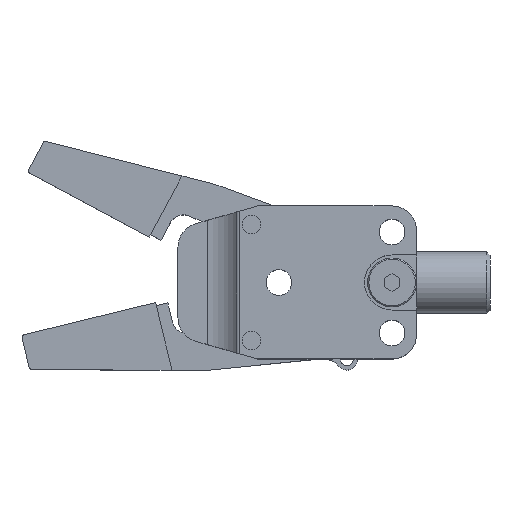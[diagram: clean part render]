
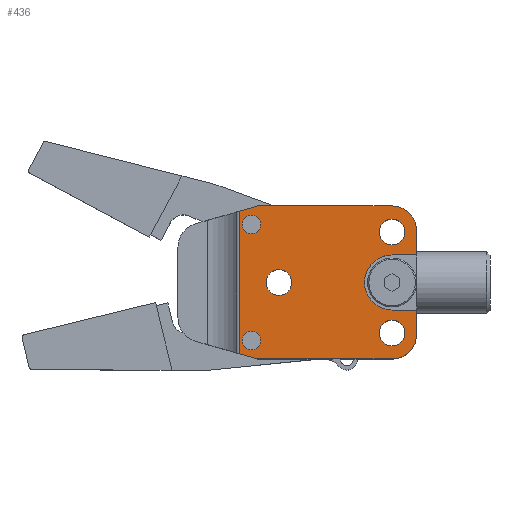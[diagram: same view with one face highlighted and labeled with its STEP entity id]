
A CAD part, top view. The second image highlights one B-rep face of the part: STEP entity #436.
In plain terms, the highlighted planar face has unit normal (0, 0, 1).
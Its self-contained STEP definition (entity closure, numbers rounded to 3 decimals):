
#436=ADVANCED_FACE('',(#828,#829,#830,#831,#832,#833),#834,.T.);
#828=FACE_BOUND('',#1235,.T.);
#829=FACE_BOUND('',#1236,.T.);
#830=FACE_BOUND('',#1237,.T.);
#831=FACE_BOUND('',#1238,.T.);
#832=FACE_BOUND('',#1239,.T.);
#833=FACE_OUTER_BOUND('',#1240,.T.);
#834=PLANE('',#1241);
#1235=EDGE_LOOP('',(#2033));
#1236=EDGE_LOOP('',(#2034));
#1237=EDGE_LOOP('',(#2035));
#1238=EDGE_LOOP('',(#2036));
#1239=EDGE_LOOP('',(#2037));
#1240=EDGE_LOOP('',(#2038,#2039,#2040,#2041,#2042,#2043,#2044,#2045,#2046,#2047,#2048,#2049));
#1241=AXIS2_PLACEMENT_3D('',#2050,#2051,#2052);
#2033=ORIENTED_EDGE('',*,*,#2524,.F.);
#2034=ORIENTED_EDGE('',*,*,#2527,.F.);
#2035=ORIENTED_EDGE('',*,*,#2530,.F.);
#2036=ORIENTED_EDGE('',*,*,#2536,.F.);
#2037=ORIENTED_EDGE('',*,*,#2538,.F.);
#2038=ORIENTED_EDGE('',*,*,#2635,.F.);
#2039=ORIENTED_EDGE('',*,*,#2636,.T.);
#2040=ORIENTED_EDGE('',*,*,#2637,.F.);
#2041=ORIENTED_EDGE('',*,*,#2638,.T.);
#2042=ORIENTED_EDGE('',*,*,#2639,.T.);
#2043=ORIENTED_EDGE('',*,*,#2624,.F.);
#2044=ORIENTED_EDGE('',*,*,#2550,.F.);
#2045=ORIENTED_EDGE('',*,*,#2554,.F.);
#2046=ORIENTED_EDGE('',*,*,#2546,.F.);
#2047=ORIENTED_EDGE('',*,*,#2623,.F.);
#2048=ORIENTED_EDGE('',*,*,#2640,.T.);
#2049=ORIENTED_EDGE('',*,*,#2641,.T.);
#2050=CARTESIAN_POINT('',(0.0,0.0,7.5));
#2051=DIRECTION('',(0.0,0.0,1.0));
#2052=DIRECTION('',(1.0,0.0,0.0));
#2524=EDGE_CURVE('',#3000,#3000,#3001,.T.);
#2527=EDGE_CURVE('',#3005,#3005,#3006,.T.);
#2530=EDGE_CURVE('',#3010,#3010,#3011,.T.);
#2536=EDGE_CURVE('',#3019,#3019,#3020,.T.);
#2538=EDGE_CURVE('',#3022,#3022,#3023,.T.);
#2546=EDGE_CURVE('',#3035,#3036,#3037,.T.);
#2550=EDGE_CURVE('',#3041,#3042,#3043,.T.);
#2554=EDGE_CURVE('',#3036,#3041,#3047,.T.);
#2623=EDGE_CURVE('',#3162,#3035,#3164,.T.);
#2624=EDGE_CURVE('',#3042,#3165,#3166,.T.);
#2635=EDGE_CURVE('',#3183,#3184,#3185,.T.);
#2636=EDGE_CURVE('',#3183,#3186,#3187,.F.);
#2637=EDGE_CURVE('',#3188,#3186,#3189,.T.);
#2638=EDGE_CURVE('',#3188,#3190,#3191,.T.);
#2639=EDGE_CURVE('',#3190,#3165,#3192,.T.);
#2640=EDGE_CURVE('',#3162,#3193,#3194,.T.);
#2641=EDGE_CURVE('',#3193,#3184,#3195,.T.);
#3000=VERTEX_POINT('',#3673);
#3001=CIRCLE('',#3674,2.1);
#3005=VERTEX_POINT('',#3678);
#3006=CIRCLE('',#3679,2.1);
#3010=VERTEX_POINT('',#3683);
#3011=CIRCLE('',#3684,2.1);
#3019=VERTEX_POINT('',#3692);
#3020=CIRCLE('',#3693,1.525);
#3022=VERTEX_POINT('',#3695);
#3023=CIRCLE('',#3696,1.525);
#3035=VERTEX_POINT('',#3712);
#3036=VERTEX_POINT('',#3713);
#3037=LINE('',#3714,#3715);
#3041=VERTEX_POINT('',#3721);
#3042=VERTEX_POINT('',#3722);
#3043=LINE('',#3723,#3724);
#3047=CIRCLE('',#3730,4.5);
#3162=VERTEX_POINT('',#3882);
#3164=LINE('',#3885,#3886);
#3165=VERTEX_POINT('',#3887);
#3166=LINE('',#3888,#3889);
#3183=VERTEX_POINT('',#3912);
#3184=VERTEX_POINT('',#3913);
#3185=LINE('',#3914,#3915);
#3186=VERTEX_POINT('',#3916);
#3187=LINE('',#3917,#3918);
#3188=VERTEX_POINT('',#3919);
#3189=LINE('',#3920,#3921);
#3190=VERTEX_POINT('',#3922);
#3191=LINE('',#3923,#3924);
#3192=CIRCLE('',#3925,4.0);
#3193=VERTEX_POINT('',#3926);
#3194=CIRCLE('',#3927,4.0);
#3195=LINE('',#3928,#3929);
#3673=CARTESIAN_POINT('',(12.1,8.25,7.5));
#3674=AXIS2_PLACEMENT_3D('',#4257,#4258,#4259);
#3678=CARTESIAN_POINT('',(12.1,-8.25,7.5));
#3679=AXIS2_PLACEMENT_3D('',#4263,#4264,#4265);
#3683=CARTESIAN_POINT('',(-6.4,0.,7.5));
#3684=AXIS2_PLACEMENT_3D('',#4269,#4270,#4271);
#3692=CARTESIAN_POINT('',(-11.475,-9.5,7.5));
#3693=AXIS2_PLACEMENT_3D('',#4278,#4279,#4280);
#3695=CARTESIAN_POINT('',(-11.475,9.5,7.5));
#3696=AXIS2_PLACEMENT_3D('',#4281,#4282,#4283);
#3712=CARTESIAN_POINT('',(14.0,4.5,7.5));
#3713=CARTESIAN_POINT('',(10.0,4.5,7.5));
#3714=CARTESIAN_POINT('',(10.0,4.5,7.5));
#3715=VECTOR('',#4291,1.0);
#3721=CARTESIAN_POINT('',(10.0,-4.5,7.5));
#3722=CARTESIAN_POINT('',(14.0,-4.5,7.5));
#3723=CARTESIAN_POINT('',(10.0,-4.5,7.5));
#3724=VECTOR('',#4294,1.0);
#3730=AXIS2_PLACEMENT_3D('',#4297,#4298,#4299);
#3882=CARTESIAN_POINT('',(14.0,8.5,7.5));
#3885=CARTESIAN_POINT('',(14.0,12.5,7.5));
#3886=VECTOR('',#4392,1.0);
#3887=CARTESIAN_POINT('',(14.0,-8.5,7.5));
#3888=CARTESIAN_POINT('',(14.0,12.5,7.5));
#3889=VECTOR('',#4393,1.0);
#3912=CARTESIAN_POINT('',(-14.997,11.641,7.5));
#3913=CARTESIAN_POINT('',(-12.0,12.5,7.5));
#3914=CARTESIAN_POINT('',(-26.0,8.486,7.5));
#3915=VECTOR('',#4406,1.0);
#3916=CARTESIAN_POINT('',(-14.997,-11.641,7.5));
#3917=CARTESIAN_POINT('',(-14.997,-11.57,7.5));
#3918=VECTOR('',#4407,1.0);
#3919=CARTESIAN_POINT('',(-12.0,-12.5,7.5));
#3920=CARTESIAN_POINT('',(-26.0,-8.486,7.5));
#3921=VECTOR('',#4408,1.0);
#3922=CARTESIAN_POINT('',(10.0,-12.5,7.5));
#3923=CARTESIAN_POINT('',(-26.0,-12.5,7.5));
#3924=VECTOR('',#4409,1.0);
#3925=AXIS2_PLACEMENT_3D('',#4410,#4411,#4412);
#3926=CARTESIAN_POINT('',(10.0,12.5,7.5));
#3927=AXIS2_PLACEMENT_3D('',#4413,#4414,#4415);
#3928=CARTESIAN_POINT('',(-26.0,12.5,7.5));
#3929=VECTOR('',#4416,1.0);
#4257=CARTESIAN_POINT('',(10.0,8.25,7.5));
#4258=DIRECTION('',(0.0,0.0,1.0));
#4259=DIRECTION('',(1.0,0.0,0.0));
#4263=CARTESIAN_POINT('',(10.0,-8.25,7.5));
#4264=DIRECTION('',(0.0,0.0,1.0));
#4265=DIRECTION('',(1.0,0.0,0.0));
#4269=CARTESIAN_POINT('',(-8.5,0.,7.5));
#4270=DIRECTION('',(0.0,0.0,1.0));
#4271=DIRECTION('',(1.0,0.0,0.0));
#4278=CARTESIAN_POINT('',(-13.0,-9.5,7.5));
#4279=DIRECTION('',(0.0,0.0,1.0));
#4280=DIRECTION('',(1.0,0.0,0.0));
#4281=CARTESIAN_POINT('',(-13.0,9.5,7.5));
#4282=DIRECTION('',(0.0,0.0,1.0));
#4283=DIRECTION('',(1.0,0.0,0.0));
#4291=DIRECTION('',(-1.0,0.0,0.0));
#4294=DIRECTION('',(1.0,0.0,0.0));
#4297=CARTESIAN_POINT('',(10.0,0.0,7.5));
#4298=DIRECTION('',(0.0,0.0,1.0));
#4299=DIRECTION('',(1.0,0.0,0.0));
#4392=DIRECTION('',(0.,-1.0,0.));
#4393=DIRECTION('',(0.,-1.0,0.));
#4406=DIRECTION('',(0.961,0.276,0.0));
#4407=DIRECTION('',(0.0,1.0,0.0));
#4408=DIRECTION('',(-0.961,0.276,0.0));
#4409=DIRECTION('',(1.0,0.0,0.0));
#4410=CARTESIAN_POINT('',(10.0,-8.5,7.5));
#4411=DIRECTION('',(0.0,0.0,1.0));
#4412=DIRECTION('',(1.0,0.0,0.0));
#4413=CARTESIAN_POINT('',(10.0,8.5,7.5));
#4414=DIRECTION('',(0.0,0.0,1.0));
#4415=DIRECTION('',(1.0,0.0,0.0));
#4416=DIRECTION('',(-1.0,0.0,0.0));
